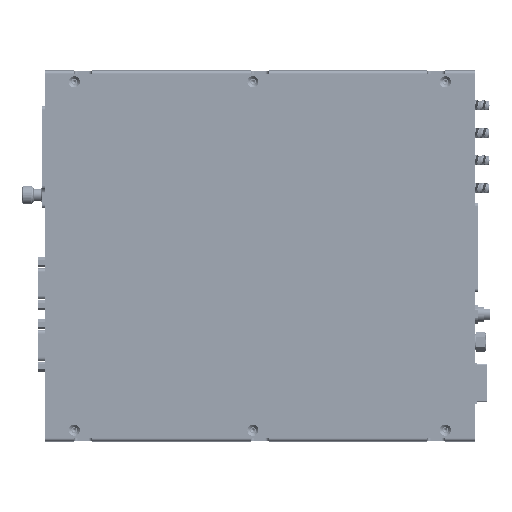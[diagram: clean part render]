
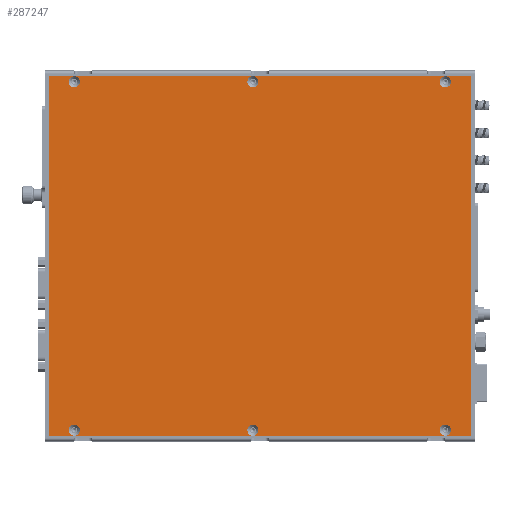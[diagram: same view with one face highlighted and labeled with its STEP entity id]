
A CAD part, front view. The second image highlights one B-rep face of the part: STEP entity #287247.
In plain terms, the highlighted planar face has unit normal (0, -1, 0).
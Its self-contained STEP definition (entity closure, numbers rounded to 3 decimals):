
#3927=FACE_BOUND('',#43163,.T.);
#3928=FACE_BOUND('',#43164,.T.);
#3929=FACE_BOUND('',#43165,.T.);
#3930=FACE_BOUND('',#43166,.T.);
#3931=FACE_BOUND('',#43167,.T.);
#3932=FACE_BOUND('',#43168,.T.);
#12196=PLANE('',#310449);
#26475=FACE_OUTER_BOUND('',#43162,.T.);
#43162=EDGE_LOOP('',(#250185,#250186,#250187,#250188));
#43163=EDGE_LOOP('',(#250189));
#43164=EDGE_LOOP('',(#250190));
#43165=EDGE_LOOP('',(#250191));
#43166=EDGE_LOOP('',(#250192));
#43167=EDGE_LOOP('',(#250193));
#43168=EDGE_LOOP('',(#250194));
#53211=CIRCLE('',#310437,3.25);
#53212=CIRCLE('',#310439,3.25);
#53213=CIRCLE('',#310441,3.25);
#53214=CIRCLE('',#310443,3.25);
#53215=CIRCLE('',#310445,3.25);
#53216=CIRCLE('',#310447,3.25);
#55727=LINE('',#387840,#83042);
#55735=LINE('',#387855,#83050);
#81615=LINE('',#532082,#108930);
#81617=LINE('',#532086,#108932);
#83042=VECTOR('',#312187,1000.);
#83050=VECTOR('',#312197,1000.);
#108930=VECTOR('',#382387,1000.);
#108932=VECTOR('',#382391,1000.);
#110423=VERTEX_POINT('',#387837);
#110424=VERTEX_POINT('',#387839);
#110430=VERTEX_POINT('',#387853);
#134744=VERTEX_POINT('',#532080);
#134755=VERTEX_POINT('',#532113);
#134756=VERTEX_POINT('',#532117);
#134757=VERTEX_POINT('',#532121);
#134758=VERTEX_POINT('',#532125);
#134759=VERTEX_POINT('',#532129);
#134760=VERTEX_POINT('',#532133);
#136247=EDGE_CURVE('',#110424,#110423,#55727,.T.);
#136255=EDGE_CURVE('',#110423,#110430,#55735,.T.);
#173526=EDGE_CURVE('',#110430,#134744,#81615,.T.);
#173528=EDGE_CURVE('',#134744,#110424,#81617,.T.);
#173543=EDGE_CURVE('',#134755,#134755,#53211,.T.);
#173545=EDGE_CURVE('',#134756,#134756,#53212,.T.);
#173547=EDGE_CURVE('',#134757,#134757,#53213,.T.);
#173549=EDGE_CURVE('',#134758,#134758,#53214,.T.);
#173551=EDGE_CURVE('',#134759,#134759,#53215,.T.);
#173553=EDGE_CURVE('',#134760,#134760,#53216,.T.);
#250185=ORIENTED_EDGE('',*,*,#173526,.T.);
#250186=ORIENTED_EDGE('',*,*,#173528,.T.);
#250187=ORIENTED_EDGE('',*,*,#136247,.T.);
#250188=ORIENTED_EDGE('',*,*,#136255,.T.);
#250189=ORIENTED_EDGE('',*,*,#173543,.F.);
#250190=ORIENTED_EDGE('',*,*,#173545,.F.);
#250191=ORIENTED_EDGE('',*,*,#173547,.F.);
#250192=ORIENTED_EDGE('',*,*,#173549,.F.);
#250193=ORIENTED_EDGE('',*,*,#173551,.F.);
#250194=ORIENTED_EDGE('',*,*,#173553,.F.);
#287247=ADVANCED_FACE('',(#26475,#3927,#3928,#3929,#3930,#3931,#3932),#12196,
 .T.);
#310437=AXIS2_PLACEMENT_3D('',#532115,#382420,#382421);
#310439=AXIS2_PLACEMENT_3D('',#532119,#382425,#382426);
#310441=AXIS2_PLACEMENT_3D('',#532123,#382430,#382431);
#310443=AXIS2_PLACEMENT_3D('',#532127,#382435,#382436);
#310445=AXIS2_PLACEMENT_3D('',#532131,#382440,#382441);
#310447=AXIS2_PLACEMENT_3D('',#532135,#382445,#382446);
#310449=AXIS2_PLACEMENT_3D('',#532139,#382451,#382452);
#312187=DIRECTION('',(1.,0.,0.));
#312197=DIRECTION('',(0.,0.,1.));
#382387=DIRECTION('',(-1.,0.,0.));
#382391=DIRECTION('',(0.,0.,-1.));
#382420=DIRECTION('center_axis',(0.,-1.,0.));
#382421=DIRECTION('ref_axis',(0.,0.,1.));
#382425=DIRECTION('center_axis',(0.,-1.,0.));
#382426=DIRECTION('ref_axis',(0.,0.,1.));
#382430=DIRECTION('center_axis',(0.,-1.,0.));
#382431=DIRECTION('ref_axis',(0.,0.,1.));
#382435=DIRECTION('center_axis',(0.,-1.,0.));
#382436=DIRECTION('ref_axis',(0.,0.,1.));
#382440=DIRECTION('center_axis',(0.,-1.,0.));
#382441=DIRECTION('ref_axis',(0.,0.,1.));
#382445=DIRECTION('center_axis',(0.,-1.,0.));
#382446=DIRECTION('ref_axis',(0.,0.,1.));
#382451=DIRECTION('center_axis',(0.,-1.,0.));
#382452=DIRECTION('ref_axis',(0.,0.,1.));
#387837=CARTESIAN_POINT('',(122.9,-42.,3.1));
#387839=CARTESIAN_POINT('',(-122.9,-42.,3.1));
#387840=CARTESIAN_POINT('',(-122.9,-42.,3.1));
#387853=CARTESIAN_POINT('',(122.9,-42.,212.9));
#387855=CARTESIAN_POINT('',(122.9,-42.,3.1));
#532080=CARTESIAN_POINT('',(-122.9,-42.,212.9));
#532082=CARTESIAN_POINT('',(-122.9,-42.,212.9));
#532086=CARTESIAN_POINT('',(-122.9,-42.,3.1));
#532113=CARTESIAN_POINT('',(108.,-42.,3.35));
#532115=CARTESIAN_POINT('Origin',(108.,-42.,6.6));
#532117=CARTESIAN_POINT('',(-4.,-42.,3.35));
#532119=CARTESIAN_POINT('Origin',(-4.,-42.,6.6));
#532121=CARTESIAN_POINT('',(-108.,-42.,3.35));
#532123=CARTESIAN_POINT('Origin',(-108.,-42.,6.6));
#532125=CARTESIAN_POINT('',(-108.,-42.,206.15));
#532127=CARTESIAN_POINT('Origin',(-108.,-42.,209.4));
#532129=CARTESIAN_POINT('',(-4.,-42.,206.15));
#532131=CARTESIAN_POINT('Origin',(-4.,-42.,209.4));
#532133=CARTESIAN_POINT('',(108.,-42.,206.15));
#532135=CARTESIAN_POINT('Origin',(108.,-42.,209.4));
#532139=CARTESIAN_POINT('Origin',(0.,-42.,
108.));
